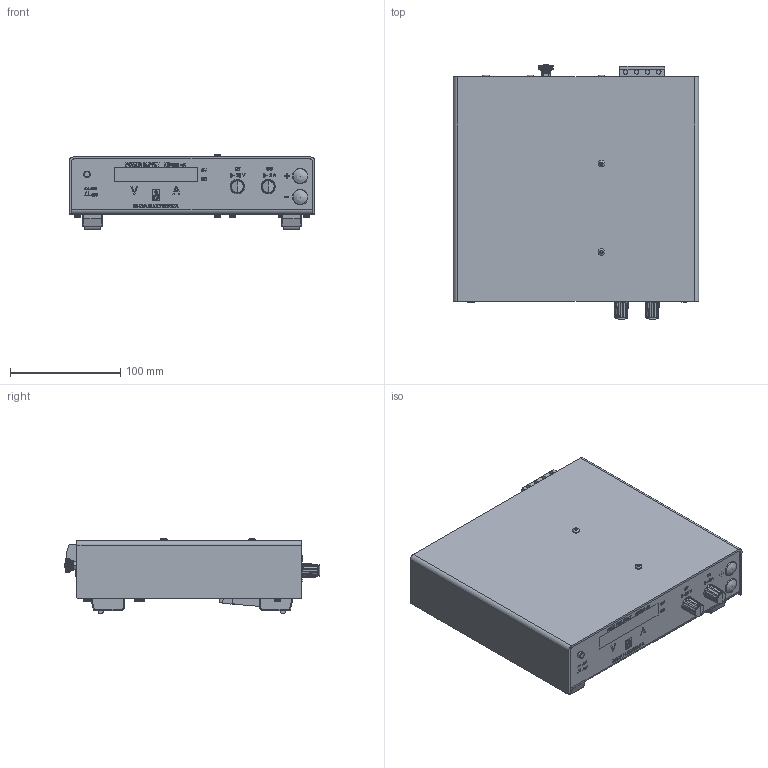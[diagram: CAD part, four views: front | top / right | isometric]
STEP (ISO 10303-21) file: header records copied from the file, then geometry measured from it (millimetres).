
FILE_DESCRIPTION(/* description */ (''),/* implementation_level */ '2;1');
FILE_NAME(/* name */ 'A:\Data\ES150\option\P120-P121\step file\assembly ES150-P121.stp',/* time_stamp */ '2021-02-08T16:37:00+01:00',/* author */ ('Delta'),/* organization */ (''),/* preprocessor_version */ 'ST-DEVELOPER v17.2',/* originating_system */ 'Autodesk Inventor 2019',/* authorisation */ '');
FILE_SCHEMA (('AUTOMOTIVE_DESIGN { 1 0 10303 214 3 1 1 }'));
Products named in the file (1): assembly ES150-P121_Shrinkwrap_1
Bounding box: 222 x 231.2 x 68.2 mm (x, y, z)
Volume: 2324832.8 mm3; surface area: 161935.6 mm2
Topology: 1 solids, 1 shells, 3329 faces, 7905 edges, 5061 vertices
Faces by surface type: plane 1824, cylinder 695, bspline 404, cone 250, torus 88, sphere 68
Full cylindrical faces by diameter (mm): 1.1 x15, 2.156 x2, 3.5 x344, 3.9 x4, 4 x2, 4.5 x2, 4.75 x4, 5 x1, 5.8 x1, 6 x27, 6.2 x2, 7.8 x2, 8 x4, 8.3 x2, 8.8 x2, 9 x2, 10 x2, 10.5 x1, 10.7 x2
Entity records: 105216 total; most frequent: CARTESIAN_POINT 27532, ORIENTED_EDGE 15762, DIRECTION 14760, EDGE_CURVE 7881, AXIS2_PLACEMENT_3D 5300, VERTEX_POINT 5063, LINE 4160, VECTOR 4160
